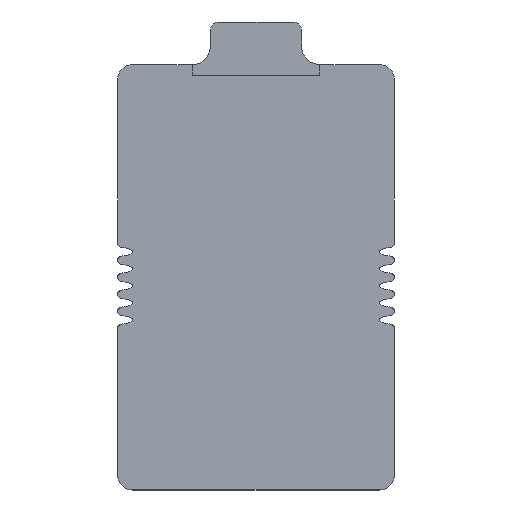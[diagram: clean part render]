
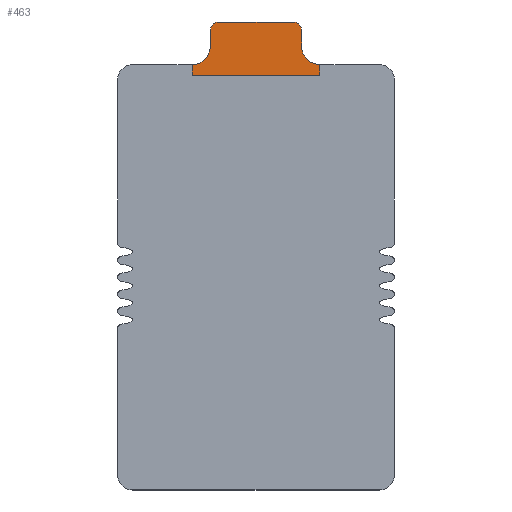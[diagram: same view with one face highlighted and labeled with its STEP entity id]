
A CAD part, top view. The second image highlights one B-rep face of the part: STEP entity #463.
In plain terms, the highlighted planar face has unit normal (0, 0, 1).
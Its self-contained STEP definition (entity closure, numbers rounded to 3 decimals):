
#27 = DIRECTION ( 'NONE',  ( 1., 0., 0. ) ) ;
#58 = ORIENTED_EDGE ( 'NONE', *, *, #508, .T. ) ;
#62 = CIRCLE ( 'NONE', #2238, 8.505 ) ;
#74 = LINE ( 'NONE', #791, #1446 ) ;
#117 = ORIENTED_EDGE ( 'NONE', *, *, #598, .F. ) ;
#127 = VERTEX_POINT ( 'NONE', #454 ) ;
#187 = LINE ( 'NONE', #929, #2128 ) ;
#198 = ORIENTED_EDGE ( 'NONE', *, *, #624, .F. ) ;
#208 = VECTOR ( 'NONE', #358, 1000. ) ;
#219 = CARTESIAN_POINT ( 'NONE',  ( -30., 99., 0.8 ) ) ;
#238 = AXIS2_PLACEMENT_3D ( 'NONE', #1822, #1999, #1646 ) ;
#240 = VERTEX_POINT ( 'NONE', #219 ) ;
#263 = VECTOR ( 'NONE', #2304, 1000. ) ;
#287 = CARTESIAN_POINT ( 'NONE',  ( -17.5, 120., 0.8 ) ) ;
#336 = AXIS2_PLACEMENT_3D ( 'NONE', #1568, #366, #520 ) ;
#353 = CARTESIAN_POINT ( 'NONE',  ( 21.5, 112.167, 0.8 ) ) ;
#358 = DIRECTION ( 'NONE',  ( 1., 0., 0. ) ) ;
#366 = DIRECTION ( 'NONE',  ( 0., 0., 1. ) ) ;
#367 = CARTESIAN_POINT ( 'NONE',  ( 30., 99., 0.8 ) ) ;
#372 = LINE ( 'NONE', #1254, #208 ) ;
#382 = CIRCLE ( 'NONE', #426, 4. ) ;
#426 = AXIS2_PLACEMENT_3D ( 'NONE', #709, #847, #697 ) ;
#454 = CARTESIAN_POINT ( 'NONE',  ( 21.5, 120., 0.8 ) ) ;
#463 = ADVANCED_FACE ( 'NONE', ( #2081 ), #1900, .T. ) ;
#470 = CARTESIAN_POINT ( 'NONE',  ( -30., 103.95, 0.8 ) ) ;
#487 = EDGE_LOOP ( 'NONE', ( #1239, #117, #633, #198, #1624, #58, #612, #601, #1556, #1137 ) ) ;
#496 = CARTESIAN_POINT ( 'NONE',  ( 17.5, 124., 0.8 ) ) ;
#508 = EDGE_CURVE ( 'NONE', #1178, #1445, #2314, .T. ) ;
#513 = VERTEX_POINT ( 'NONE', #353 ) ;
#520 = DIRECTION ( 'NONE',  ( 1., 0., 0. ) ) ;
#598 = EDGE_CURVE ( 'NONE', #127, #513, #1987, .T. ) ;
#601 = ORIENTED_EDGE ( 'NONE', *, *, #1815, .F. ) ;
#612 = ORIENTED_EDGE ( 'NONE', *, *, #1171, .T. ) ;
#622 = DIRECTION ( 'NONE',  ( 0., 0., 1. ) ) ;
#624 = EDGE_CURVE ( 'NONE', #1612, #1261, #1997, .T. ) ;
#633 = ORIENTED_EDGE ( 'NONE', *, *, #1093, .F. ) ;
#672 = AXIS2_PLACEMENT_3D ( 'NONE', #287, #839, #1008 ) ;
#697 = DIRECTION ( 'NONE',  ( 1., 0., 0. ) ) ;
#709 = CARTESIAN_POINT ( 'NONE',  ( 17.5, 120., 0.8 ) ) ;
#791 = CARTESIAN_POINT ( 'NONE',  ( -30., 0., 0.8 ) ) ;
#839 = DIRECTION ( 'NONE',  ( 0., 0., 1. ) ) ;
#847 = DIRECTION ( 'NONE',  ( 0., 0., -1. ) ) ;
#890 = EDGE_CURVE ( 'NONE', #1612, #1178, #1112, .T. ) ;
#929 = CARTESIAN_POINT ( 'NONE',  ( 30., 0., 0.8 ) ) ;
#969 = VERTEX_POINT ( 'NONE', #1577 ) ;
#1008 = DIRECTION ( 'NONE',  ( 1., 0., 0. ) ) ;
#1059 = CARTESIAN_POINT ( 'NONE',  ( -17.5, 124., 0.8 ) ) ;
#1069 = DIRECTION ( 'NONE',  ( 0., 1., 0. ) ) ;
#1093 = EDGE_CURVE ( 'NONE', #1261, #127, #382, .T. ) ;
#1112 = CIRCLE ( 'NONE', #672, 4. ) ;
#1137 = ORIENTED_EDGE ( 'NONE', *, *, #1687, .T. ) ;
#1171 = EDGE_CURVE ( 'NONE', #1445, #1899, #2123, .T. ) ;
#1178 = VERTEX_POINT ( 'NONE', #2193 ) ;
#1239 = ORIENTED_EDGE ( 'NONE', *, *, #2108, .F. ) ;
#1245 = CARTESIAN_POINT ( 'NONE',  ( -21.5, 0., 0.8 ) ) ;
#1254 = CARTESIAN_POINT ( 'NONE',  ( 0., 99., 0.8 ) ) ;
#1261 = VERTEX_POINT ( 'NONE', #496 ) ;
#1268 = DIRECTION ( 'NONE',  ( 0., -1., 0. ) ) ;
#1338 = DIRECTION ( 'NONE',  ( 1., 0., 0. ) ) ;
#1445 = VERTEX_POINT ( 'NONE', #1941 ) ;
#1446 = VECTOR ( 'NONE', #1501, 1000. ) ;
#1475 = VERTEX_POINT ( 'NONE', #367 ) ;
#1501 = DIRECTION ( 'NONE',  ( 0., 1., 0. ) ) ;
#1556 = ORIENTED_EDGE ( 'NONE', *, *, #1620, .T. ) ;
#1568 = CARTESIAN_POINT ( 'NONE',  ( 0., 0., 0.8 ) ) ;
#1577 = CARTESIAN_POINT ( 'NONE',  ( 30., 103.95, 0.8 ) ) ;
#1612 = VERTEX_POINT ( 'NONE', #1059 ) ;
#1620 = EDGE_CURVE ( 'NONE', #240, #1475, #372, .T. ) ;
#1624 = ORIENTED_EDGE ( 'NONE', *, *, #890, .T. ) ;
#1633 = CARTESIAN_POINT ( 'NONE',  ( 21.5, 0., 0.8 ) ) ;
#1646 = DIRECTION ( 'NONE',  ( 1., 0., 0. ) ) ;
#1647 = VECTOR ( 'NONE', #27, 1000. ) ;
#1687 = EDGE_CURVE ( 'NONE', #1475, #969, #187, .T. ) ;
#1762 = VECTOR ( 'NONE', #1268, 1000. ) ;
#1815 = EDGE_CURVE ( 'NONE', #240, #1899, #74, .T. ) ;
#1822 = CARTESIAN_POINT ( 'NONE',  ( -30., 112.463, 0.8 ) ) ;
#1899 = VERTEX_POINT ( 'NONE', #470 ) ;
#1900 = PLANE ( 'NONE',  #336 ) ;
#1941 = CARTESIAN_POINT ( 'NONE',  ( -21.5, 111.999, 0.8 ) ) ;
#1987 = LINE ( 'NONE', #1633, #1762 ) ;
#1997 = LINE ( 'NONE', #2190, #1647 ) ;
#1999 = DIRECTION ( 'NONE',  ( 0., 0., -1. ) ) ;
#2006 = CARTESIAN_POINT ( 'NONE',  ( 30., 112.455, 0.8 ) ) ;
#2081 = FACE_OUTER_BOUND ( 'NONE', #487, .T. ) ;
#2108 = EDGE_CURVE ( 'NONE', #513, #969, #62, .T. ) ;
#2123 = CIRCLE ( 'NONE', #238, 8.513 ) ;
#2128 = VECTOR ( 'NONE', #1069, 1000. ) ;
#2190 = CARTESIAN_POINT ( 'NONE',  ( 0., 124., 0.8 ) ) ;
#2193 = CARTESIAN_POINT ( 'NONE',  ( -21.5, 120., 0.8 ) ) ;
#2238 = AXIS2_PLACEMENT_3D ( 'NONE', #2006, #622, #1338 ) ;
#2304 = DIRECTION ( 'NONE',  ( 0., -1., 0. ) ) ;
#2314 = LINE ( 'NONE', #1245, #263 ) ;
